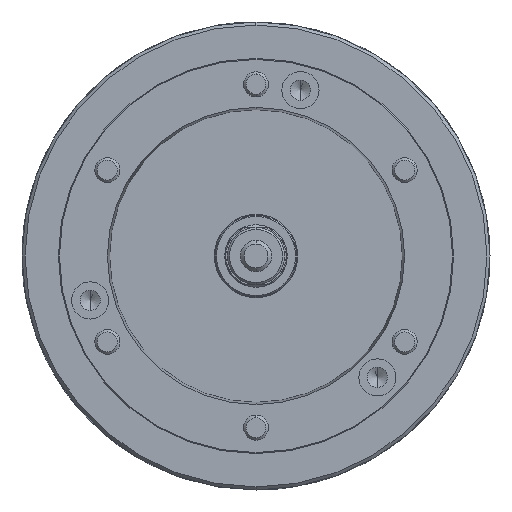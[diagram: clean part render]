
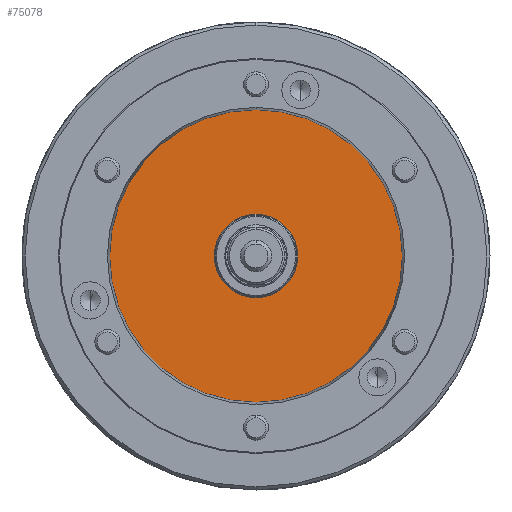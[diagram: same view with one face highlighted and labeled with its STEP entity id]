
A CAD part, left-side view. The second image highlights one B-rep face of the part: STEP entity #75078.
In plain terms, the highlighted planar face has unit normal (-1, 0, 0) as drawn and (0, 0, -1) by its records, which use the part's own axes.
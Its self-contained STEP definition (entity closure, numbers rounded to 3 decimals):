
#1016 = CIRCLE ( 'NONE', #83822, 40. ) ;
#2477 = CARTESIAN_POINT ( 'NONE',  ( 0., 0., -146. ) ) ;
#4021 = ORIENTED_EDGE ( 'NONE', *, *, #9168, .F. ) ;
#4124 = EDGE_LOOP ( 'NONE', ( #70485, #4021 ) ) ;
#4921 = CARTESIAN_POINT ( 'NONE',  ( 0., 0., -146. ) ) ;
#7805 = CIRCLE ( 'NONE', #38380, 140.7 ) ;
#9093 = DIRECTION ( 'NONE',  ( 0., 0., 1. ) ) ;
#9168 = EDGE_CURVE ( 'NONE', #79116, #78357, #13802, .T. ) ;
#10338 = DIRECTION ( 'NONE',  ( 1., 0., 0. ) ) ;
#10557 = AXIS2_PLACEMENT_3D ( 'NONE', #4921, #59516, #12791 ) ;
#12791 = DIRECTION ( 'NONE',  ( 1., 0., 0. ) ) ;
#13802 = CIRCLE ( 'NONE', #10557, 140.7 ) ;
#17227 = ORIENTED_EDGE ( 'NONE', *, *, #40030, .F. ) ;
#22720 = PLANE ( 'NONE',  #91820 ) ;
#23259 = ORIENTED_EDGE ( 'NONE', *, *, #67133, .F. ) ;
#24390 = EDGE_LOOP ( 'NONE', ( #23259, #17227 ) ) ;
#27698 = CARTESIAN_POINT ( 'NONE',  ( 0., 0., -146. ) ) ;
#35536 = DIRECTION ( 'NONE',  ( 1., 0., 0. ) ) ;
#38380 = AXIS2_PLACEMENT_3D ( 'NONE', #55808, #9093, #63635 ) ;
#38417 = DIRECTION ( 'NONE',  ( 0., 0., 1. ) ) ;
#40030 = EDGE_CURVE ( 'NONE', #89006, #44666, #87814, .T. ) ;
#44666 = VERTEX_POINT ( 'NONE', #50738 ) ;
#50738 = CARTESIAN_POINT ( 'NONE',  ( 40., 0., -146. ) ) ;
#52896 = FACE_OUTER_BOUND ( 'NONE', #4124, .T. ) ;
#55370 = FACE_BOUND ( 'NONE', #24390, .T. ) ;
#55808 = CARTESIAN_POINT ( 'NONE',  ( 0., 0., -146. ) ) ;
#57068 = DIRECTION ( 'NONE',  ( 0., 0., -1. ) ) ;
#59308 = CARTESIAN_POINT ( 'NONE',  ( -140.7, 0., -146. ) ) ;
#59516 = DIRECTION ( 'NONE',  ( 0., 0., 1. ) ) ;
#61726 = CARTESIAN_POINT ( 'NONE',  ( -40., 0., -146. ) ) ;
#62839 = AXIS2_PLACEMENT_3D ( 'NONE', #2477, #57068, #10338 ) ;
#63635 = DIRECTION ( 'NONE',  ( 1., 0., 0. ) ) ;
#67133 = EDGE_CURVE ( 'NONE', #44666, #89006, #1016, .T. ) ;
#70485 = ORIENTED_EDGE ( 'NONE', *, *, #95665, .F. ) ;
#75078 = ADVANCED_FACE ( 'NONE', ( #52896, #55370 ), #22720, .F. ) ;
#76919 = CARTESIAN_POINT ( 'NONE',  ( 0., -140.7, -146. ) ) ;
#78357 = VERTEX_POINT ( 'NONE', #88794 ) ;
#79116 = VERTEX_POINT ( 'NONE', #59308 ) ;
#82261 = DIRECTION ( 'NONE',  ( 0., 0., -1. ) ) ;
#83822 = AXIS2_PLACEMENT_3D ( 'NONE', #27698, #82261, #35536 ) ;
#87814 = CIRCLE ( 'NONE', #62839, 40. ) ;
#88794 = CARTESIAN_POINT ( 'NONE',  ( 140.7, 0., -146. ) ) ;
#89006 = VERTEX_POINT ( 'NONE', #61726 ) ;
#91820 = AXIS2_PLACEMENT_3D ( 'NONE', #76919, #38417, #92969 ) ;
#92969 = DIRECTION ( 'NONE',  ( 1., 0., 0. ) ) ;
#95665 = EDGE_CURVE ( 'NONE', #78357, #79116, #7805, .T. ) ;
